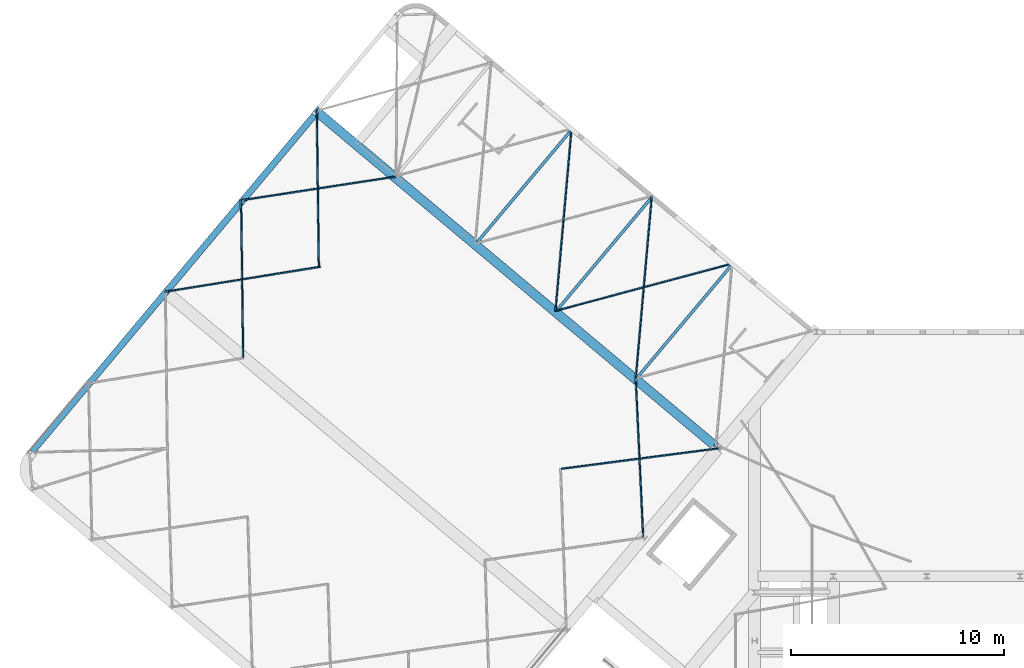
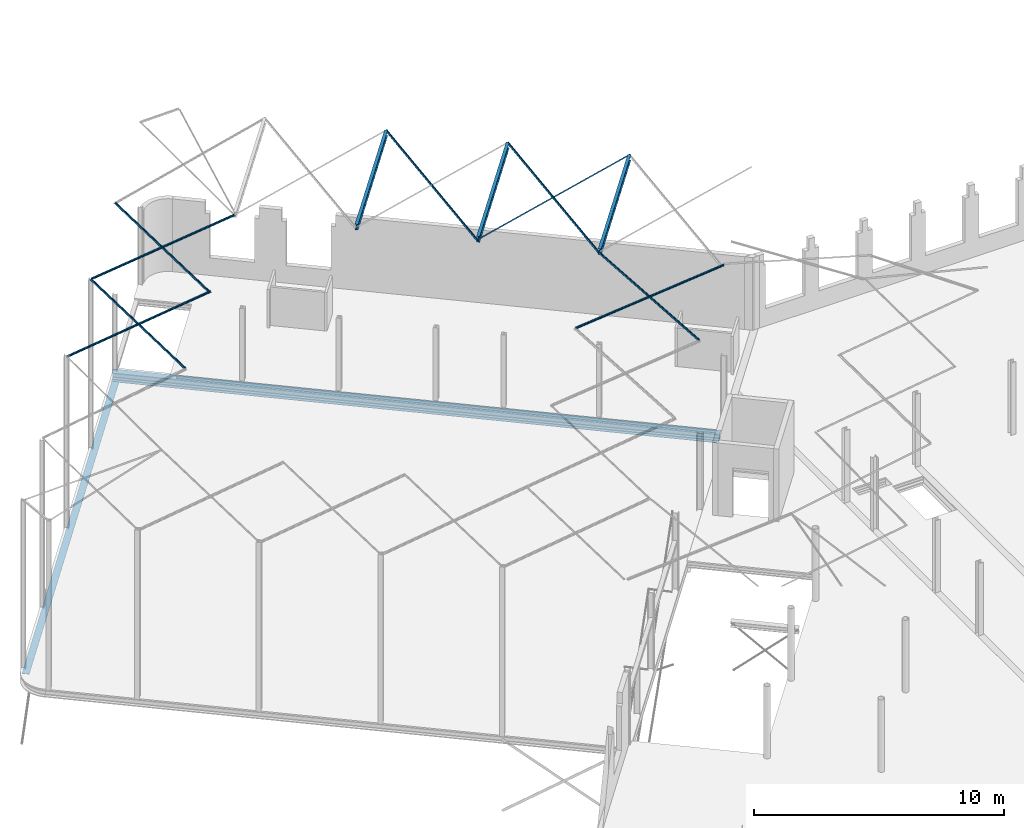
# One storey, part 16 of 25: 15 beams.
"""IFC2X3 building model written with IfcOpenShell, lengths in millimetres."""

from ifc_helpers import new_model, entity, si_unit, converted_unit, derived_unit, direction, frame, frame_2d, origin, place, context, subcontext, project, spatial, polyline, circle_curve, parameter, trimmed, segment, composite_curve, rectangle, i_section, outline, extrude, material, type_object, element, save


model = new_model("IFC2X3")

# Units and contexts
model_context = context("Model", 3, precision=0.01, world=origin(), true_north=direction((6.123031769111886e-17, 1.0)))
body_context = subcontext(model_context, "Body", "Model", "MODEL_VIEW")
ifc_project = project(units=[si_unit("LENGTHUNIT", "METRE", prefix="MILLI"), si_unit("AREAUNIT", "SQUARE_METRE"), si_unit("VOLUMEUNIT", "CUBIC_METRE"), derived_unit("MASSDENSITYUNIT", [(si_unit("MASSUNIT", "GRAM", prefix="KILO"), 1), (si_unit("LENGTHUNIT", "METRE"), -3)]), si_unit("MASSUNIT", "GRAM", prefix="KILO"), converted_unit("PLANEANGLEUNIT", "DEGREE", entity("IfcPlaneAngleMeasure", 0.017453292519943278), si_unit("PLANEANGLEUNIT", "RADIAN"), dimensions=[0, 0, 0, 0, 0, 0, 0])], contexts=[model_context])

# Site, building, storey
site_placement = place(None, origin())
site = spatial("IfcSite", under=ifc_project, at=site_placement, Name="Default", CompositionType="ELEMENT")
building_placement = place(site_placement, origin())
building = spatial("IfcBuilding", under=site, at=building_placement, Name="AT constructie", CompositionType="ELEMENT")
storey_placement = place(building_placement, frame((0.0, 0.0, 3864.0)))
storey = spatial("IfcBuildingStorey", under=building, at=storey_placement, Name="01 eerste verdieping", CompositionType="ELEMENT", Elevation=3864.0)

# Beams
ifc_material = material(Name="h2_staal_S355")
beam_type_1 = type_object("IfcBeamType", Name="balk HE_gen_HEB320", PredefinedType="NOTDEFINED")
beam_1_placement = place(storey_placement, frame((20474.44183367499, 53265.72627519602, 0.0), z_axis=(0.0, 0.0, 1.0), x_axis=(0.7660444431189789, -0.6427876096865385, 0.0)))
element("IfcBeam", 1, at=beam_1_placement, inside=storey, type_object=beam_type_1, material=ifc_material, Name="NLRS_28_SF_LIB_balk HEB_gen_AT:balk HE_gen_HEB320", ObjectType="NLRS_28_SF_LIB_balk HEB_gen_AT:balk HE_gen_HEB320", context=body_context, shape_type="SweptSolid", body=[
    extrude(i_section(OverallWidth=299.999999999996, OverallDepth=319.9999999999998, WebThickness=11.500000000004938, FlangeThickness=20.500000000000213, FilletRadius=26.99999999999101, at=frame_2d((-1.0942358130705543e-12, 6.0964566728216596e-12), x_axis=(0.0, 1.0))), frame((0.0, 0.0, -431.0), z_axis=(1.0, 0.0, 0.0), x_axis=(0.0, 0.0, -1.0)), (0.0, 0.0, 1.0), 24637.499999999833),
])
beam_type_2 = type_object("IfcBeamType", Name="balk strip liggend_gen_300x15", PredefinedType="NOTDEFINED")
beam_2_placement = place(storey_placement, frame((7151.8072610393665, 37135.62353857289, 0.0), z_axis=(0.0, 0.0, 1.0), x_axis=(0.6427876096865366, 0.7660444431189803, 0.0)))
element("IfcBeam", 2, at=beam_2_placement, inside=storey, type_object=beam_type_2, material=ifc_material, Name="NLRS_28_SF_LIB_balk strip_gen_AT:balk strip liggend_gen_300x15", ObjectType="NLRS_28_SF_LIB_balk strip_gen_AT:balk strip liggend_gen_300x15", context=body_context, shape_type="SweptSolid", body=[
    extrude(rectangle(XDim=14.999999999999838, YDim=300.00000000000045, at=frame_2d((0.0, -4.121147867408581e-13), x_axis=(1.0, 0.0))), frame((0.0, 0.0, -598.5000000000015), z_axis=(1.0, 0.0, 0.0), x_axis=(0.0, 0.0, -1.0)), (0.0, 0.0, 1.0), 20660.000000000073),
])
beam_type_3 = type_object("IfcBeamType", Name="balk strip liggend_gen_440x20", PredefinedType="NOTDEFINED")
beam_3_placement = place(storey_placement, frame((20435.874577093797, 53219.76360860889, 0.0), z_axis=(0.0, 0.0, 1.0), x_axis=(0.7660444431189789, -0.6427876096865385, 0.0)))
element("IfcBeam", 3, at=beam_3_placement, inside=storey, type_object=beam_type_3, material=ifc_material, Name="NLRS_28_SF_LIB_balk strip_gen_AT:balk strip liggend_gen_440x20", ObjectType="NLRS_28_SF_LIB_balk strip_gen_AT:balk strip liggend_gen_440x20", context=body_context, shape_type="SweptSolid", body=[
    extrude(rectangle(XDim=19.999999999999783, YDim=439.99999999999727, at=frame_2d((0.0, -3.325340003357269e-12), x_axis=(1.0, 0.0))), frame((0.0, 0.0, -601.0), z_axis=(1.0, 0.0, 0.0), x_axis=(0.0, 0.0, -1.0)), (0.0, 0.0, 1.0), 24537.499999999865),
])
beam_type_4 = type_object("IfcBeamType", Name="balk IPE_gen_270", PredefinedType="NOTDEFINED")
beam_4_placement = place(storey_placement, frame((28099.668664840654, 46994.234264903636, 7999.44544442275), z_axis=(0.010283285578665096, 0.012255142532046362, 0.9998720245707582), x_axis=(0.6427053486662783, 0.7659464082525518, -0.015997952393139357)))
element("IfcBeam", 4, at=beam_4_placement, inside=storey, type_object=beam_type_4, material=ifc_material, Name="NLRS_28_SF_LIB_balk IPE_gen_AT:balk IPE_gen_270", ObjectType="NLRS_28_SF_LIB_balk IPE_gen_AT:balk IPE_gen_270", context=body_context, shape_type="SweptSolid", body=[
    extrude(outline(composite_curve([segment(polyline([(124.79999999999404, -67.50000000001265), (135.0, -67.50000000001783)]), True, "CONTINUOUS"), segment(polyline([(135.0, -67.50000000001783), (135.0, 67.49999999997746)]), True, "CONTINUOUS"), segment(polyline([(135.0, 67.49999999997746), (124.80000000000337, 67.49999999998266)]), True, "CONTINUOUS"), segment(polyline([(124.80000000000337, 67.49999999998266), (124.79999999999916, 18.29999999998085)]), True, "CONTINUOUS"), segment(trimmed(circle_curve(frame_2d((109.8000000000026, 18.299999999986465), x_axis=(1.0, 0.0)), 14.999999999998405), [parameter(269.9999999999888)], [parameter(0.0)], True, "PARAMETER"), False, "CONTINUOUS"), segment(polyline([(109.79999999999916, 3.2999999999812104), (-109.80000000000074, 3.2999999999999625)]), True, "CONTINUOUS"), segment(trimmed(circle_curve(frame_2d((-109.7999999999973, 18.300000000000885), x_axis=(0.0, -1.0)), 15.00000000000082), [parameter(270.000000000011)], [parameter(0.0)], True, "PARAMETER"), False, "CONTINUOUS"), segment(polyline([(-124.79999999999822, 18.300000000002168), (-124.79999999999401, 67.50000000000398)]), True, "CONTINUOUS"), segment(polyline([(-124.79999999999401, 67.50000000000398), (-135.0, 67.50000000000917)]), True, "CONTINUOUS"), segment(polyline([(-135.0, 67.50000000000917), (-135.0, -67.49999999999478)]), True, "CONTINUOUS"), segment(polyline([(-135.0, -67.49999999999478), (-124.80000000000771, -67.49999999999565)]), True, "CONTINUOUS"), segment(polyline([(-124.80000000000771, -67.49999999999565), (-124.80000000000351, -18.299999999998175)]), True, "CONTINUOUS"), segment(trimmed(circle_curve(frame_2d((-109.80000000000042, -18.299999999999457), x_axis=(-1.0, 0.0)), 15.000000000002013), [parameter(270.00000000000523)], [parameter(0.0)], True, "PARAMETER"), False, "CONTINUOUS"), segment(polyline([(-109.8000000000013, -3.299999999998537), (109.79999999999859, -3.300000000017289)]), True, "CONTINUOUS"), segment(trimmed(circle_curve(frame_2d((109.79999999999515, -18.30000000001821), x_axis=(0.0, 1.0)), 15.000000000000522), [parameter(270.000000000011)], [parameter(0.0)], True, "PARAMETER"), False, "CONTINUOUS"), segment(polyline([(124.79999999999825, -18.30000000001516), (124.79999999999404, -67.50000000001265)]), True, "CONTINUOUS")], self_intersect=False)), frame((14.859999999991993, 0.0, -135.0), z_axis=(1.0, 0.0, 0.0), x_axis=(0.0, 0.0, -1.0)), (0.0, 0.0, 1.0), 6830.20166621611),
])
beam_5_placement = place(storey_placement, frame((31876.267769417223, 43825.29134914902, 7999.44544442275), z_axis=(0.010283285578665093, 0.012255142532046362, 0.9998720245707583), x_axis=(0.6427053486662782, 0.7659464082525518, -0.015997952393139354)))
element("IfcBeam", 5, at=beam_5_placement, inside=storey, type_object=beam_type_4, material=ifc_material, Name="NLRS_28_SF_LIB_balk IPE_gen_AT:balk IPE_gen_270", ObjectType="NLRS_28_SF_LIB_balk IPE_gen_AT:balk IPE_gen_270", context=body_context, shape_type="SweptSolid", body=[
    extrude(outline(composite_curve([segment(polyline([(124.79999999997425, -67.50000000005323), (135.0, -67.50000000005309)]), True, "CONTINUOUS"), segment(polyline([(135.0, -67.50000000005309), (135.0, 67.4999999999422)]), True, "CONTINUOUS"), segment(polyline([(135.0, 67.4999999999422), (124.80000000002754, 67.49999999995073)]), True, "CONTINUOUS"), segment(polyline([(124.80000000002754, 67.49999999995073), (124.80000000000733, 18.299999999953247)]), True, "CONTINUOUS"), segment(trimmed(circle_curve(frame_2d((109.80000000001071, 18.299999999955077), x_axis=(1.0, 0.0)), 14.99999999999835), [parameter(269.9999999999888)], [parameter(0.0)], True, "PARAMETER"), False, "CONTINUOUS"), segment(polyline([(109.80000000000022, 3.299999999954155), (-109.79999999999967, 3.3000000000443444)]), True, "CONTINUOUS"), segment(trimmed(circle_curve(frame_2d((-109.79999999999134, 18.300000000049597), x_axis=(0.0, -1.0)), 15.000000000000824), [parameter(270.000000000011)], [parameter(0.0)], True, "PARAMETER"), False, "CONTINUOUS"), segment(polyline([(-124.79999999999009, 18.300000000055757), (-124.79999999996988, 67.50000000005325)]), True, "CONTINUOUS"), segment(polyline([(-124.79999999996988, 67.50000000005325), (-135.0, 67.50000000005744)]), True, "CONTINUOUS"), segment(polyline([(-135.0, 67.50000000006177), (-135.0, -67.49999999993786)]), True, "CONTINUOUS"), segment(polyline([(-135.0, -67.49999999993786), (-124.80000000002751, -67.49999999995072)]), True, "CONTINUOUS"), segment(polyline([(-124.80000000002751, -67.49999999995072), (-124.8000000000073, -18.299999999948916)]), True, "CONTINUOUS"), segment(trimmed(circle_curve(frame_2d((-109.80000000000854, -18.299999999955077), x_axis=(-1.0, 0.0)), 15.000000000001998), [parameter(270.00000000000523)], [parameter(0.0)], True, "PARAMETER"), False, "CONTINUOUS"), segment(polyline([(-109.80000000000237, -3.299999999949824), (109.79999999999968, -3.3000000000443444)]), True, "CONTINUOUS"), segment(trimmed(circle_curve(frame_2d((109.79999999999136, -18.300000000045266), x_axis=(0.0, 1.0)), 15.00000000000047), [parameter(270.000000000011)], [parameter(0.0)], True, "PARAMETER"), False, "CONTINUOUS"), segment(polyline([(124.7999999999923, -18.30000000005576), (124.79999999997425, -67.5000000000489)]), True, "CONTINUOUS")], self_intersect=False)), frame((14.860000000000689, 0.0, -135.0), z_axis=(1.0, 0.0, 0.0), x_axis=(0.0, 0.0, -1.0)), (0.0, 0.0, 1.0), 6830.201666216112),
])
beam_6_placement = place(storey_placement, frame((35652.8668739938, 40656.34843339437, 7999.44544442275), z_axis=(0.010283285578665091, 0.012255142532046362, 0.9998720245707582), x_axis=(0.6427053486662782, 0.7659464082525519, -0.015997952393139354)))
element("IfcBeam", 6, at=beam_6_placement, inside=storey, type_object=beam_type_4, material=ifc_material, Name="NLRS_28_SF_LIB_balk IPE_gen_AT:balk IPE_gen_270", ObjectType="NLRS_28_SF_LIB_balk IPE_gen_AT:balk IPE_gen_270", context=body_context, shape_type="SweptSolid", body=[
    extrude(outline(composite_curve([segment(polyline([(124.79999999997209, -67.50000000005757), (135.0, -67.50000000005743)]), True, "CONTINUOUS"), segment(polyline([(135.0, -67.5000000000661), (135.0, 67.49999999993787)]), True, "CONTINUOUS"), segment(polyline([(135.0, 67.49999999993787), (124.80000000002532, 67.4999999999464)]), True, "CONTINUOUS"), segment(polyline([(124.80000000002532, 67.49999999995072), (124.80000000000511, 18.299999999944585)]), True, "CONTINUOUS"), segment(trimmed(circle_curve(frame_2d((109.80000000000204, 18.299999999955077), x_axis=(1.0, 0.0)), 15.0000000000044), [parameter(270.0000000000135)], [parameter(0.0)], True, "PARAMETER"), False, "CONTINUOUS"), segment(polyline([(109.80000000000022, 3.299999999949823), (-109.79999999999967, 3.300000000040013)]), True, "CONTINUOUS"), segment(trimmed(circle_curve(frame_2d((-109.79999999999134, 18.300000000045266), x_axis=(0.0, -1.0)), 15.000000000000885), [parameter(270.0000000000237)], [parameter(0.0)], True, "PARAMETER"), False, "CONTINUOUS"), segment(polyline([(-124.79999999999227, 18.300000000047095), (-124.79999999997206, 67.50000000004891)]), True, "CONTINUOUS"), segment(polyline([(-124.79999999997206, 67.50000000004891), (-135.0, 67.50000000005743)]), True, "CONTINUOUS"), segment(polyline([(-135.0, 67.50000000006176), (-135.0, -67.49999999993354)]), True, "CONTINUOUS"), segment(polyline([(-135.0, -67.49999999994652), (-124.80000000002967, -67.4999999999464)]), True, "CONTINUOUS"), segment(polyline([(-124.80000000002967, -67.49999999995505), (-124.80000000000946, -18.299999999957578)]), True, "CONTINUOUS"), segment(trimmed(circle_curve(frame_2d((-109.80000000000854, -18.299999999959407), x_axis=(-1.0, 0.0)), 14.999999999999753), [parameter(269.9999999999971)], [parameter(0.0)], True, "PARAMETER"), False, "CONTINUOUS"), segment(polyline([(-109.80000000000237, -3.2999999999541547), (109.79999999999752, -3.300000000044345)]), True, "CONTINUOUS"), segment(trimmed(circle_curve(frame_2d((109.7999999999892, -18.300000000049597), x_axis=(0.0, 1.0)), 15.000000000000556), [parameter(270.000000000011)], [parameter(0.0)], True, "PARAMETER"), False, "CONTINUOUS"), segment(polyline([(124.79999999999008, -18.300000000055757), (124.79999999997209, -67.50000000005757)]), True, "CONTINUOUS")], self_intersect=False)), frame((14.860000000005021, 0.0, -135.0), z_axis=(1.0, 0.0, 0.0), x_axis=(0.0, 0.0, -1.0)), (0.0, 0.0, 1.0), 6830.201666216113),
])
beam_type_5 = type_object("IfcBeamType", Name="balk_gen_L70x70x7", PredefinedType="NOTDEFINED")
beam_7_placement = place(storey_placement, frame((13396.203898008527, 44682.417022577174, 8179.0), z_axis=(0.011949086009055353, 0.0019263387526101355, 0.9999267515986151), x_axis=(0.9871809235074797, 0.15914563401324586, -0.012103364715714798)))
element("IfcBeam", 7, at=beam_7_placement, inside=storey, type_object=beam_type_5, material=ifc_material, Name="NLRS_28_SF_LIB_balk hoeklijn_gen_AT:balk_gen_L70x70x7", ObjectType="NLRS_28_SF_LIB_balk hoeklijn_gen_AT:balk_gen_L70x70x7", context=body_context, shape_type="SweptSolid", body=[
    extrude(outline(composite_curve([segment(polyline([(-26.444444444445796, -26.44444444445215), (43.55555555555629, -26.444444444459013)]), True, "CONTINUOUS"), segment(polyline([(43.55555555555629, -26.444444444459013), (43.555555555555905, -23.944444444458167)]), True, "CONTINUOUS"), segment(trimmed(circle_curve(frame_2d((39.055555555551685, -23.94444444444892), x_axis=(1.0, 0.0)), 4.500000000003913), [parameter(0.0)], [parameter(89.99999999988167)], True, "PARAMETER"), True, "CONTINUOUS"), segment(polyline([(39.055555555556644, -19.44444444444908), (-10.444444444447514, -19.44444444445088)]), True, "CONTINUOUS"), segment(trimmed(circle_curve(frame_2d((-10.444444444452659, -10.444444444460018), x_axis=(0.0, -1.0)), 8.999999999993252), [parameter(269.9999999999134)], [parameter(0.0)], True, "PARAMETER"), False, "CONTINUOUS"), segment(polyline([(-19.444444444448, -10.44444444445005), (-19.444444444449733, 39.055555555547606)]), True, "CONTINUOUS"), segment(trimmed(circle_curve(frame_2d((-23.9444444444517, 39.05555555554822), x_axis=(1.0, 0.0)), 4.500000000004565), [parameter(0.0)], [parameter(89.99999999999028)], True, "PARAMETER"), True, "CONTINUOUS"), segment(polyline([(-23.944444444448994, 43.5555555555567), (-26.44444444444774, 43.55555555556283)]), True, "CONTINUOUS"), segment(polyline([(-26.444444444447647, 43.55555555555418), (-26.44444444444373, -26.444444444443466)]), True, "CONTINUOUS")], self_intersect=False)), frame((0.0, -20.108315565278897, -63.34864408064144), z_axis=(1.0, 0.0, 0.0), x_axis=(0.0, 0.010462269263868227, 0.999945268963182)), (0.0, 0.0, 1.0), 7412.899926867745),
])
beam_8_placement = place(storey_placement, frame((17012.58440462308, 48992.251483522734, 8088.9825708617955), z_axis=(-0.00015834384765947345, 0.012119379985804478, 0.9999265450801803), x_axis=(0.013063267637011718, -0.9998412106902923, 0.012120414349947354)))
element("IfcBeam", 8, at=beam_8_placement, inside=storey, type_object=beam_type_5, material=ifc_material, Name="NLRS_28_SF_LIB_balk hoeklijn_gen_AT:balk_gen_L70x70x7", ObjectType="NLRS_28_SF_LIB_balk hoeklijn_gen_AT:balk_gen_L70x70x7", context=body_context, shape_type="SweptSolid", body=[
    extrude(outline(composite_curve([segment(polyline([(-26.444444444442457, -26.444444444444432), (43.555555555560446, -26.444444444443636)]), True, "CONTINUOUS"), segment(polyline([(43.555555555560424, -26.444444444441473), (43.555555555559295, -23.944444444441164)]), True, "CONTINUOUS"), segment(trimmed(circle_curve(frame_2d((39.05555555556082, -23.944444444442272), x_axis=(1.0, 0.0)), 4.499999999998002), [parameter(0.0)], [parameter(90.00000000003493)], True, "PARAMETER"), True, "CONTINUOUS"), segment(polyline([(39.05555555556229, -19.444444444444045), (-10.444444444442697, -19.444444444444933)]), True, "CONTINUOUS"), segment(trimmed(circle_curve(frame_2d((-10.444444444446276, -10.444444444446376), x_axis=(0.0, -1.0)), 8.999999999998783), [parameter(269.99999999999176)], [parameter(0.0)], True, "PARAMETER"), False, "CONTINUOUS"), segment(polyline([(-19.444444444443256, -10.44444444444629), (-19.444444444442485, 39.05555555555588)]), True, "CONTINUOUS"), segment(trimmed(circle_curve(frame_2d((-23.944444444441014, 39.0555555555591), x_axis=(1.0, 0.0)), 4.499999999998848), [parameter(0.0)], [parameter(90.00000000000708)], True, "PARAMETER"), True, "CONTINUOUS"), segment(polyline([(-23.944444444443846, 43.55555555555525), (-26.44444444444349, 43.55555555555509)]), True, "CONTINUOUS"), segment(polyline([(-26.44444444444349, 43.55555555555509), (-26.444444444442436, -26.4444444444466)]), True, "CONTINUOUS")], self_intersect=False)), frame((0.0, -20.10706389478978, -63.349041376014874), z_axis=(1.0, 0.0, 0.0), x_axis=(0.0, 0.010442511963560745, 0.9999454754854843)), (0.0, 0.0, 1.0), 7426.926715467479),
])
beam_9_placement = place(storey_placement, frame((17012.58440462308, 48992.251483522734, 8088.9825708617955), z_axis=(0.011883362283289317, 0.0018216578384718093, 0.9999277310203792), x_axis=(0.9883820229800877, 0.15151384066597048, -0.012022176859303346)))
element("IfcBeam", 9, at=beam_9_placement, inside=storey, type_object=beam_type_5, material=ifc_material, Name="NLRS_28_SF_LIB_balk hoeklijn_gen_AT:balk_gen_L70x70x7", ObjectType="NLRS_28_SF_LIB_balk hoeklijn_gen_AT:balk_gen_L70x70x7", context=body_context, shape_type="SweptSolid", body=[
    extrude(outline(composite_curve([segment(polyline([(-26.44444444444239, -26.44444444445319), (43.55555555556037, -26.44444444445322)]), True, "CONTINUOUS"), segment(polyline([(43.55555555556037, -26.44444444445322), (43.55555555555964, -23.944444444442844)]), True, "CONTINUOUS"), segment(trimmed(circle_curve(frame_2d((39.055555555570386, -23.944444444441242), x_axis=(1.0, 0.0)), 4.499999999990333), [parameter(0.0)], [parameter(90.00000000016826)], True, "PARAMETER"), True, "CONTINUOUS"), segment(polyline([(39.055555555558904, -19.444444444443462), (-10.444444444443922, -19.444444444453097)]), True, "CONTINUOUS"), segment(trimmed(circle_curve(frame_2d((-10.44444444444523, -10.444444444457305), x_axis=(0.0, -1.0)), 8.99999999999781), [parameter(269.99999999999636)], [parameter(0.0)], True, "PARAMETER"), False, "CONTINUOUS"), segment(polyline([(-19.44444444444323, -10.444444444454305), (-19.4444444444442, 39.05555555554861)]), True, "CONTINUOUS"), segment(trimmed(circle_curve(frame_2d((-23.944444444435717, 39.055555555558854), x_axis=(1.0, 0.0)), 4.49999999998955), [parameter(0.0)], [parameter(90.00000000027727)], True, "PARAMETER"), True, "CONTINUOUS"), segment(polyline([(-23.944444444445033, 43.55555555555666), (-26.444444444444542, 43.55555555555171)]), True, "CONTINUOUS"), segment(polyline([(-26.44444444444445, 43.55555555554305), (-26.44444444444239, -26.44444444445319)]), True, "CONTINUOUS")], self_intersect=False)), frame((0.0, -20.114219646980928, -63.346769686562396), z_axis=(1.0, 0.0, 0.0), x_axis=(0.0, 0.01055546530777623, 0.9999442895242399)), (0.0, 0.0, 1.0), 7347.442943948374),
])
beam_10_placement = place(storey_placement, frame((20573.172036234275, 53235.594585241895, 8000.353914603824), z_axis=(-0.00015834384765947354, 0.012119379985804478, 0.9999265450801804), x_axis=(0.013063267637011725, -0.9998412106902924, 0.012120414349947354)))
element("IfcBeam", 10, at=beam_10_placement, inside=storey, type_object=beam_type_5, material=ifc_material, Name="NLRS_28_SF_LIB_balk hoeklijn_gen_AT:balk_gen_L70x70x7", ObjectType="NLRS_28_SF_LIB_balk hoeklijn_gen_AT:balk_gen_L70x70x7", context=body_context, shape_type="SweptSolid", body=[
    extrude(outline(composite_curve([segment(polyline([(-26.444444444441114, -26.444444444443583), (43.55555555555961, -26.444444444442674)]), True, "CONTINUOUS"), segment(polyline([(43.55555555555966, -26.444444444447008), (43.55555555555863, -23.94444444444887)]), True, "CONTINUOUS"), segment(trimmed(circle_curve(frame_2d((39.05555555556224, -23.944444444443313), x_axis=(1.0, 0.0)), 4.4999999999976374), [parameter(0.0)], [parameter(89.99999999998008)], True, "PARAMETER"), True, "CONTINUOUS"), segment(polyline([(39.055555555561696, -19.444444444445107), (-10.444444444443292, -19.444444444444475)]), True, "CONTINUOUS"), segment(trimmed(circle_curve(frame_2d((-10.444444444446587, -10.44444444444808), x_axis=(0.0, -1.0)), 8.999999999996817), [parameter(269.9999999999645)], [parameter(0.0)], True, "PARAMETER"), False, "CONTINUOUS"), segment(polyline([(-19.444444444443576, -10.444444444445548), (-19.44444444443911, 39.055555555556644)]), True, "CONTINUOUS"), segment(trimmed(circle_curve(frame_2d((-23.94444444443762, 39.05555555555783), x_axis=(1.0, 0.0)), 4.499999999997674), [parameter(0.0)], [parameter(90.00000000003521)], True, "PARAMETER"), True, "CONTINUOUS"), segment(polyline([(-23.94444444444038, 43.55555555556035), (-26.44444444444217, 43.55555555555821)]), True, "CONTINUOUS"), segment(polyline([(-26.44444444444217, 43.55555555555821), (-26.444444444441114, -26.444444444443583)]), True, "CONTINUOUS")], self_intersect=False)), frame((0.0, -20.107063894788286, -63.34904137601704), z_axis=(1.0, 0.0, 0.0), x_axis=(0.0, 0.010442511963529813, 0.9999454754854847)), (0.0, 0.0, 1.0), 7426.92671546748),
])
beam_11_placement = place(storey_placement, frame((32556.028123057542, 52305.116659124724, 7888.51961097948), z_axis=(0.001149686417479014, 0.013059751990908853, 0.9999140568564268), x_axis=(-0.08768610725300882, -0.9960618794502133, 0.013110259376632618)))
element("IfcBeam", 11, at=beam_11_placement, inside=storey, type_object=beam_type_5, material=ifc_material, Name="NLRS_28_SF_LIB_balk hoeklijn_gen_AT:balk_gen_L70x70x7", ObjectType="NLRS_28_SF_LIB_balk hoeklijn_gen_AT:balk_gen_L70x70x7", context=body_context, shape_type="SweptSolid", body=[
    extrude(outline(composite_curve([segment(polyline([(-26.444444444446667, -26.444444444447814), (43.555555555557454, -26.44444444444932)]), True, "CONTINUOUS"), segment(polyline([(43.55555555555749, -26.44444444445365), (43.555555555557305, -23.944444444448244)]), True, "CONTINUOUS"), segment(trimmed(circle_curve(frame_2d((39.05555555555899, -23.94444444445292), x_axis=(1.0, 0.0)), 4.500000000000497), [parameter(0.0)], [parameter(89.99999999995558)], True, "PARAMETER"), True, "CONTINUOUS"), segment(polyline([(39.05555555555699, -19.44444444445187), (-10.444444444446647, -19.44444444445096)]), True, "CONTINUOUS"), segment(trimmed(circle_curve(frame_2d((-10.444444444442, -10.444444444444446), x_axis=(0.0, -1.0)), 9.00000000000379), [parameter(270.00000000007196)], [parameter(0.0)], True, "PARAMETER"), False, "CONTINUOUS"), segment(polyline([(-19.444444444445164, -10.444444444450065), (-19.44444444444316, 39.055555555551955)]), True, "CONTINUOUS"), segment(trimmed(circle_curve(frame_2d((-23.944444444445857, 39.05555555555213), x_axis=(1.0, 0.0)), 4.5000000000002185), [parameter(0.0)], [parameter(90.00000000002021)], True, "PARAMETER"), True, "CONTINUOUS"), segment(polyline([(-23.94444444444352, 43.555555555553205), (-26.444444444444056, 43.55555555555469)]), True, "CONTINUOUS"), segment(polyline([(-26.444444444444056, 43.55555555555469), (-26.444444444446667, -26.444444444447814)]), True, "CONTINUOUS")], self_intersect=False)), frame((0.0, -20.02636612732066, -63.374598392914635), z_axis=(1.0, 0.0, 0.0), x_axis=(0.0, 0.009168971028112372, 0.9999579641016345)), (0.0, 0.0, 1.0), 8602.566631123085),
])
beam_12_placement = place(storey_placement, frame((36332.62722763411, 49136.17374337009, 7888.51961097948), z_axis=(0.0011496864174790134, 0.013059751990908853, 0.9999140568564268), x_axis=(-0.08768610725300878, -0.9960618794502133, 0.013110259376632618)))
element("IfcBeam", 12, at=beam_12_placement, inside=storey, type_object=beam_type_5, material=ifc_material, Name="NLRS_28_SF_LIB_balk hoeklijn_gen_AT:balk_gen_L70x70x7", ObjectType="NLRS_28_SF_LIB_balk hoeklijn_gen_AT:balk_gen_L70x70x7", context=body_context, shape_type="SweptSolid", body=[
    extrude(outline(composite_curve([segment(polyline([(-26.444444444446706, -26.444444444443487), (43.555555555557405, -26.44444444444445)]), True, "CONTINUOUS"), segment(polyline([(43.55555555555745, -26.44444444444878), (43.55555555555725, -23.944444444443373)]), True, "CONTINUOUS"), segment(trimmed(circle_curve(frame_2d((39.05555555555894, -23.944444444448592), x_axis=(1.0, 0.0)), 4.500000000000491), [parameter(0.0)], [parameter(89.99999999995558)], True, "PARAMETER"), True, "CONTINUOUS"), segment(polyline([(39.05555555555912, -19.44444444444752), (-10.444444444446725, -19.444444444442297)]), True, "CONTINUOUS"), segment(trimmed(circle_curve(frame_2d((-10.444444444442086, -10.444444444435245), x_axis=(0.0, -1.0)), 9.00000000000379), [parameter(270.00000000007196)], [parameter(0.0)], True, "PARAMETER"), False, "CONTINUOUS"), segment(polyline([(-19.44444444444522, -10.444444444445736), (-19.444444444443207, 39.05555555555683)]), True, "CONTINUOUS"), segment(trimmed(circle_curve(frame_2d((-23.94444444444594, 39.05555555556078), x_axis=(1.0, 0.0)), 4.500000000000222), [parameter(0.0)], [parameter(90.00000000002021)], True, "PARAMETER"), True, "CONTINUOUS"), segment(polyline([(-23.944444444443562, 43.55555555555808), (-26.44444444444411, 43.55555555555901)]), True, "CONTINUOUS"), segment(polyline([(-26.44444444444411, 43.55555555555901), (-26.444444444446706, -26.444444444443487)]), True, "CONTINUOUS")], self_intersect=False)), frame((0.0, -20.02636612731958, -63.374598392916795), z_axis=(1.0, 0.0, 0.0), x_axis=(0.0, 0.009168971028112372, 0.9999579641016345)), (0.0, 0.0, 1.0), 8602.566631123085),
])
beam_13_placement = place(storey_placement, frame((40102.91334699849, 45959.7073048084, 7888.676751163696), z_axis=(0.012658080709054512, 0.0033900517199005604, 0.9999141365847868), x_axis=(-0.9658747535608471, -0.25867787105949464, 0.013104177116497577)))
element("IfcBeam", 13, at=beam_13_placement, inside=storey, type_object=beam_type_5, material=ifc_material, Name="NLRS_28_SF_LIB_balk hoeklijn_gen_AT:balk_gen_L70x70x7", ObjectType="NLRS_28_SF_LIB_balk hoeklijn_gen_AT:balk_gen_L70x70x7", context=body_context, shape_type="SweptSolid", body=[
    extrude(outline(composite_curve([segment(polyline([(-26.44444444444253, -26.444444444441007), (43.55555555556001, -26.44444444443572)]), True, "CONTINUOUS"), segment(polyline([(43.55555555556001, -26.44444444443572), (43.555555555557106, -23.94444444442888)]), True, "CONTINUOUS"), segment(trimmed(circle_curve(frame_2d((39.055555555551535, -23.94444444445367), x_axis=(1.0, 0.0)), 4.500000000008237), [parameter(0.0)], [parameter(89.99999999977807)], True, "PARAMETER"), True, "CONTINUOUS"), segment(polyline([(39.05555555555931, -19.444444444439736), (-10.444444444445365, -19.444444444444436)]), True, "CONTINUOUS"), segment(trimmed(circle_curve(frame_2d((-10.444444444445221, -10.444444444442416), x_axis=(0.0, -1.0)), 8.999999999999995), [parameter(270.00000000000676)], [parameter(0.0)], True, "PARAMETER"), False, "CONTINUOUS"), segment(polyline([(-19.444444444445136, -10.444444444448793), (-19.444444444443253, 39.05555555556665)]), True, "CONTINUOUS"), segment(trimmed(circle_curve(frame_2d((-23.94444444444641, 39.055555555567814), x_axis=(1.0, 0.0)), 4.500000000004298), [parameter(0.0)], [parameter(89.99999999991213)], True, "PARAMETER"), True, "CONTINUOUS"), segment(polyline([(-23.944444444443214, 43.555555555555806), (-26.44444444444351, 43.55555555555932)]), True, "CONTINUOUS"), segment(polyline([(-26.44444444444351, 43.55555555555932), (-26.44444444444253, -26.444444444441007)]), True, "CONTINUOUS")], self_intersect=False)), frame((0.0, -18.86033409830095, -63.73133341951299), z_axis=(1.0, 0.0, 0.0), x_axis=(0.0, -0.009177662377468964, 0.9999578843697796)), (0.0, 0.0, 1.0), 8594.567873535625),
])
beam_14_placement = place(storey_placement, frame((32043.874607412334, 36355.31893405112, 8089.278968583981), z_axis=(0.011679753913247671, 0.0015183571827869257, 0.9999306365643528), x_axis=(0.9915869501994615, 0.12890538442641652, -0.011778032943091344)))
element("IfcBeam", 14, at=beam_14_placement, inside=storey, type_object=beam_type_5, material=ifc_material, Name="NLRS_28_SF_LIB_balk hoeklijn_gen_AT:balk_gen_L70x70x7", ObjectType="NLRS_28_SF_LIB_balk hoeklijn_gen_AT:balk_gen_L70x70x7", context=body_context, shape_type="SweptSolid", body=[
    extrude(outline(composite_curve([segment(polyline([(-26.4444444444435, -26.44444444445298), (43.55555555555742, -26.444444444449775)]), True, "CONTINUOUS"), segment(polyline([(43.55555555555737, -26.444444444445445), (43.55555555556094, -23.9444444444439)]), True, "CONTINUOUS"), segment(trimmed(circle_curve(frame_2d((39.05555555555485, -23.94444444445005), x_axis=(1.0, 0.0)), 4.500000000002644), [parameter(0.0)], [parameter(89.99999999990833)], True, "PARAMETER"), True, "CONTINUOUS"), segment(polyline([(39.05555555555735, -19.444444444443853), (-10.444444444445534, -19.444444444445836)]), True, "CONTINUOUS"), segment(trimmed(circle_curve(frame_2d((-10.444444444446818, -10.444444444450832), x_axis=(0.0, -1.0)), 8.999999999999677), [parameter(269.99999999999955)], [parameter(0.0)], True, "PARAMETER"), False, "CONTINUOUS"), segment(polyline([(-19.444444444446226, -10.444444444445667), (-19.444444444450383, 39.055555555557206)]), True, "CONTINUOUS"), segment(trimmed(circle_curve(frame_2d((-23.944444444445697, 39.055555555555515), x_axis=(1.0, 0.0)), 4.499999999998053), [parameter(0.0)], [parameter(90.00000000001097)], True, "PARAMETER"), True, "CONTINUOUS"), segment(polyline([(-23.944444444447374, 43.55555555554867), (-26.44444444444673, 43.55555555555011)]), True, "CONTINUOUS"), segment(polyline([(-26.44444444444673, 43.55555555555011), (-26.4444444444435, -26.44444444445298)]), True, "CONTINUOUS")], self_intersect=False)), frame((0.0, -20.131434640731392, -63.341300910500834), z_axis=(1.0, 0.0, 0.0), x_axis=(0.0, 0.010827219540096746, 0.9999413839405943)), (0.0, 0.0, 1.0), 7469.624018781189),
])
beam_15_placement = place(storey_placement, frame((35578.379906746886, 40567.57832257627, 8001.299542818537), z_axis=(-0.0005537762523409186, 0.011744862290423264, 0.999930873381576), x_axis=(0.04709493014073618, -0.9988212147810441, 0.011757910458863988)))
element("IfcBeam", 15, at=beam_15_placement, inside=storey, type_object=beam_type_5, material=ifc_material, Name="NLRS_28_SF_LIB_balk hoeklijn_gen_AT:balk_gen_L70x70x7", ObjectType="NLRS_28_SF_LIB_balk hoeklijn_gen_AT:balk_gen_L70x70x7", context=body_context, shape_type="SweptSolid", body=[
    extrude(outline(composite_curve([segment(polyline([(-26.444444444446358, -26.444444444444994), (43.55555555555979, -26.444444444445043)]), True, "CONTINUOUS"), segment(polyline([(43.55555555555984, -26.444444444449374), (43.5555555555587, -23.94444444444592)]), True, "CONTINUOUS"), segment(trimmed(circle_curve(frame_2d((39.05555555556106, -23.944444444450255), x_axis=(1.0, 0.0)), 4.49999999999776), [parameter(0.0)], [parameter(89.99999999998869)], True, "PARAMETER"), True, "CONTINUOUS"), segment(polyline([(39.05555555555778, -19.444444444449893), (-10.444444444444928, -19.444444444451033)]), True, "CONTINUOUS"), segment(trimmed(circle_curve(frame_2d((-10.444444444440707, -10.444444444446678), x_axis=(0.0, -1.0)), 9.000000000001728), [parameter(270.00000000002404)], [parameter(0.0)], True, "PARAMETER"), False, "CONTINUOUS"), segment(polyline([(-19.44444444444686, -10.444444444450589), (-19.44444444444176, 39.0555555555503)]), True, "CONTINUOUS"), segment(trimmed(circle_curve(frame_2d((-23.944444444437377, 39.05555555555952), x_axis=(1.0, 0.0)), 4.49999999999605), [parameter(0.0)], [parameter(90.00000000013)], True, "PARAMETER"), True, "CONTINUOUS"), segment(polyline([(-23.94444444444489, 43.5555555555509), (-26.44444444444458, 43.55555555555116)]), True, "CONTINUOUS"), segment(polyline([(-26.44444444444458, 43.55555555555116), (-26.44444444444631, -26.444444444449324)]), True, "CONTINUOUS")], self_intersect=False)), frame((0.0, -20.132818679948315, -63.340861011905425), z_axis=(1.0, 0.0, 0.0), x_axis=(0.0, 0.010849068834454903, 0.999941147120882)), (0.0, 0.0, 1.0), 7454.578933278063),
])

save(model, "model.ifc")
